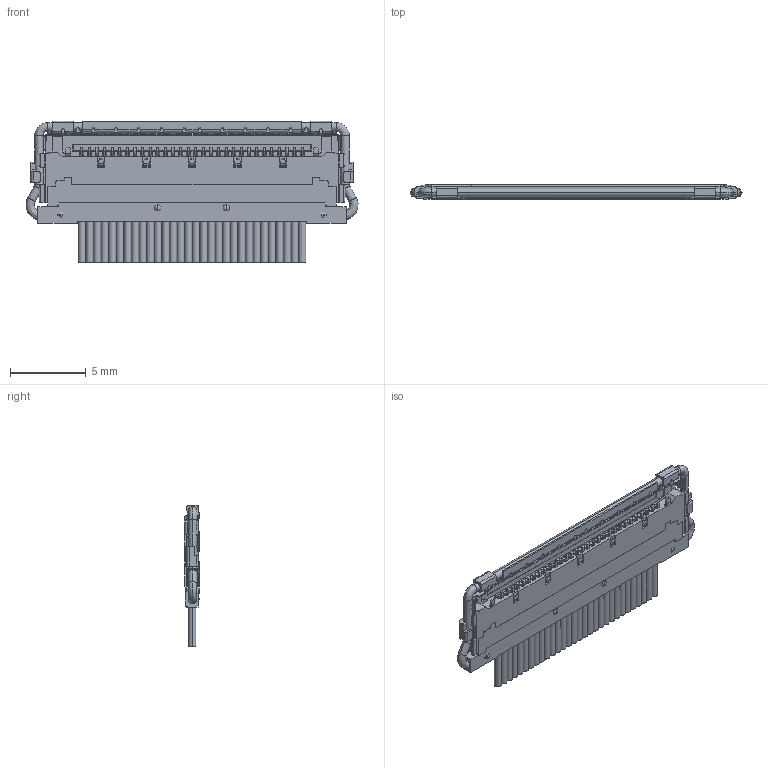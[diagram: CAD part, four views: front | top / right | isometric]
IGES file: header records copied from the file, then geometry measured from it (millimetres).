
Start section: SolidWorks IGES file using analytic representation for surfaces
Global section: file name: C:\3dworks\馬場\CAB-VSII\170823 CAB-VSII 30P STEP - Rev.1UP\20846-030T-01+20849-030E-01C MATING IGES R0R0R0R1 Intel.IGS,1; native system: 5HSolidWorks 2014; preprocessor: SolidWorks 2014; author: ieng2-013; date: 170823.142521; units: millimetre
Bounding box: 21.84 x 0.95 x 9.32 mm (x, y, z)
Surface area: 579.4 mm2 (no closed solid volume)
Topology: 0 solids, 0 shells, 1604 faces, 11713 edges, 11709 vertices
Faces by surface type: bspline 1008, revolution 596
